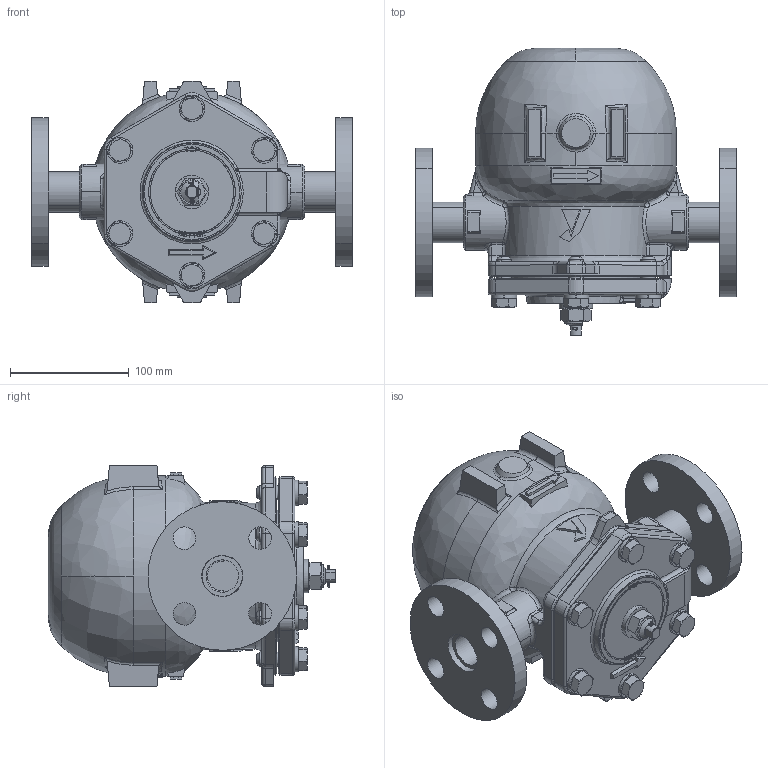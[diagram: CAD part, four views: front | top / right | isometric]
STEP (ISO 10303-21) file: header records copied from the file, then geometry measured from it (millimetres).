
FILE_DESCRIPTION( (''), '2;1');
FILE_NAME ('PC1027.12188.TSF-11SF JIS10KFF 25A_27738.stp','2025-07-31T10:14:09',(''),(''),'spGate 20.6.3 (****-****-****-****)','','');
FILE_SCHEMA (('AUTOMOTIVE_DESIGN'));
Length unit declared in the file: millimetre
Products named in the file (13): Assembly; SOP 10K 25A; CP_SUS_Q_Q''_SUS304TP 25AxSch40x260_5126; 3D_@TSF-10_@_____s__; 3D_@TSF-10_@_Z_p_i_b_g; 3D_@TSF-10_@_J___[; 3D_@TSF-11_@________; ____; _R_b_N____; CP_''_JIS B 1180 _____a_Z_p_{___g''_17168; SSLW12; ________; _{__25A ____
Assembly tree (23 placements, depth 2):
  Assembly
    SOP 10K 25A  x2
    CP_SUS_Q_Q''_SUS304TP 25AxSch40x260_5126
    3D_@TSF-10_@_____s__
    3D_@TSF-10_@_Z_p_i_b_g
    3D_@TSF-10_@_J___[
    3D_@TSF-11_@________
    ____
    _R_b_N____
    CP_''_JIS B 1180 _____a_Z_p_{___g''_17168  x6
    SSLW12  x6
    ________
    _{__25A ____
Bounding box: 270 x 242 x 186 mm (x, y, z)
Volume: 4152225.8 mm3; surface area: 353386.7 mm2
Topology: 23 solids, 23 shells, 1024 faces, 3430 edges, 2463 vertices
Faces by surface type: plane 464, bspline 307, cylinder 253
Entity records: 68898 total; most frequent: CARTESIAN_POINT 28122, ORIENTED_EDGE 5552, COLOUR_RGB 3648, PRESENTATION_STYLE_ASSIGNMENT 3648, STYLED_ITEM 3648, DIRECTION 2846, EDGE_CURVE 2776, DRAUGHTING_PRE_DEFINED_CURVE_FONT 2776
